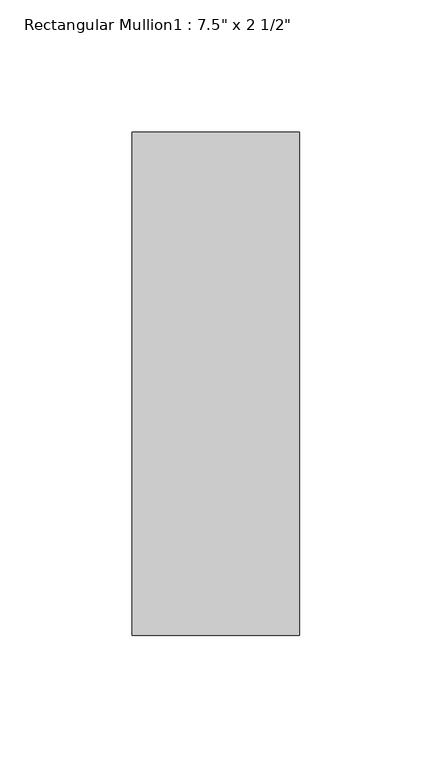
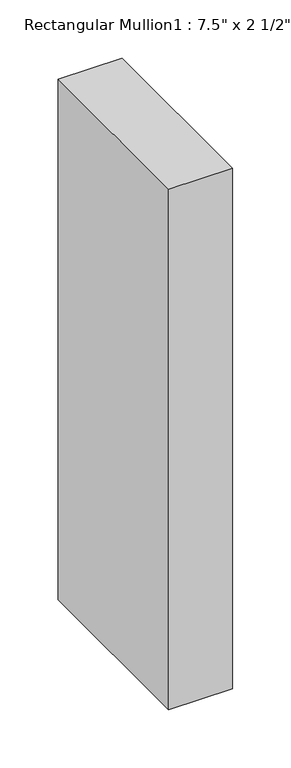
"""IFC4 building model written with IfcOpenShell, lengths in millimetres: member geometry."""

from ifc_helpers import new_model, si_unit, frame, origin, place, context, project, spatial, polyline, outline, extrude, source, transform, mapped, element, save


def member_77ef84b4(model_context):
    return source(origin(), model_context, "Body", "SweptSolid", [
        extrude(outline(polyline([(31.75, 165.1), (31.75, -25.4), (-31.75, -25.4), (-31.75, 165.1), (31.75, 165.1)])), frame((0.0, 0.0, -546.1), z_axis=(0.0, 0.0, 1.0), x_axis=(1.0, 0.0, 0.0)), (0.0, 0.0, 1.0), 546.1),
    ])


if __name__ == "__main__":
    model = new_model("IFC4")
    model_context = context("Model", 3, world=origin())
    ifc_project = project(units=[si_unit("LENGTHUNIT", "METRE", prefix="MILLI")], contexts=[model_context])
    site = spatial("IfcSite", under=ifc_project)
    building = spatial("IfcBuilding", under=site)
    placement = place(None, origin())
    member_shape = member_77ef84b4(model_context)
    element("IfcMember", 1, ObjectType="Rectangular Mullion1 : 7.5\" x 2 1/2\"", at=placement, inside=building, context=model_context, shape_type="MappedRepresentation", body=[
        mapped(member_shape, transform((0.0, 0.0, 0.0), x_axis=(1.0, 0.0, 0.0), y_axis=(0.0, 1.0, 0.0), z_axis=(0.0, 0.0, 1.0))),
    ])
    save(model, "model.ifc")
